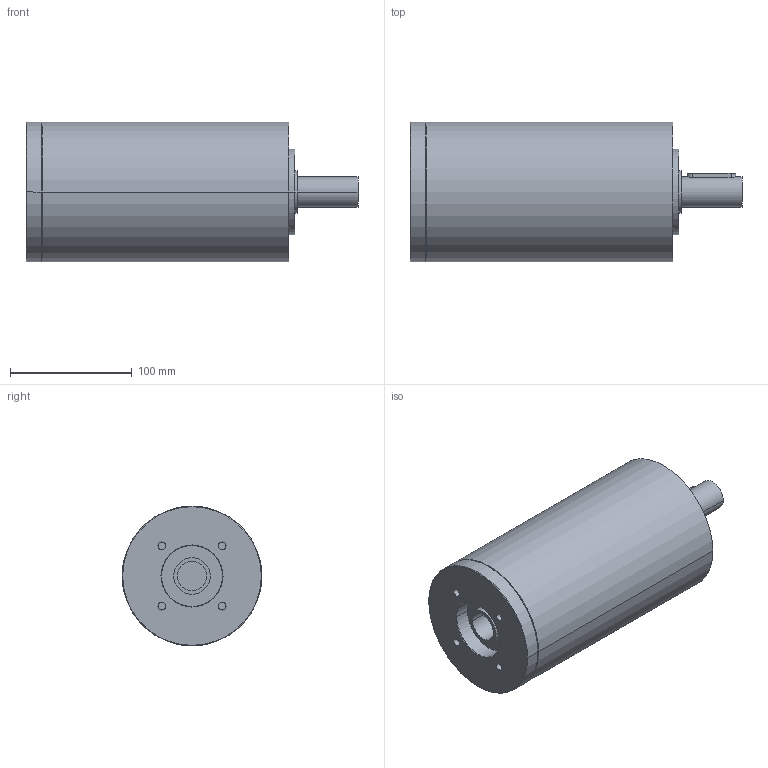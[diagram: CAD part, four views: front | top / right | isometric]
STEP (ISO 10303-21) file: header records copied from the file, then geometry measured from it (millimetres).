
FILE_DESCRIPTION(('CoCreate Modeling STEP Export'),'2;1');
FILE_NAME('GPR125_ig-48-64-80-100-140-196-245-343_25_B14_24_P14.stp','2014-08-26T14:22:34',(''),(''),'CoCreate Modeling STEP processor for AP214 (Solid Model)','CoCreate Modeling 16.00C 25-Feb-2009 (C) Parametric Technology GmbH','');
FILE_SCHEMA(('AUTOMOTIVE_DESIGN { 1 0 10303 214 1 1 1 1 }'));
Length unit declared in the file: millimetre
Products named in the file (2): GPR125_ig-48-64-80-100-140-196-245-343_25_B14_24_P14
Assembly tree (1 placements, depth 2):
  GPR125_ig-48-64-80-100-140-196-245-343_25_B14_24_P14
    GPR125_ig-48-64-80-100-140-196-245-343_25_B14_24_P14
Bounding box: 273 x 115 x 115 mm (x, y, z)
Volume: 2235935.2 mm3; surface area: 115792.9 mm2
Topology: 1 solids, 1 shells, 78 faces, 192 edges, 134 vertices
Faces by surface type: cylinder 44, plane 24, cone 10
Entity records: 1955 total; most frequent: ORIENTED_EDGE 380, CARTESIAN_POINT 360, DIRECTION 256, EDGE_CURVE 190, VERTEX_POINT 134, AXIS2_PLACEMENT_3D 98, EDGE_LOOP 98, FACE_OUTER_BOUND 78
